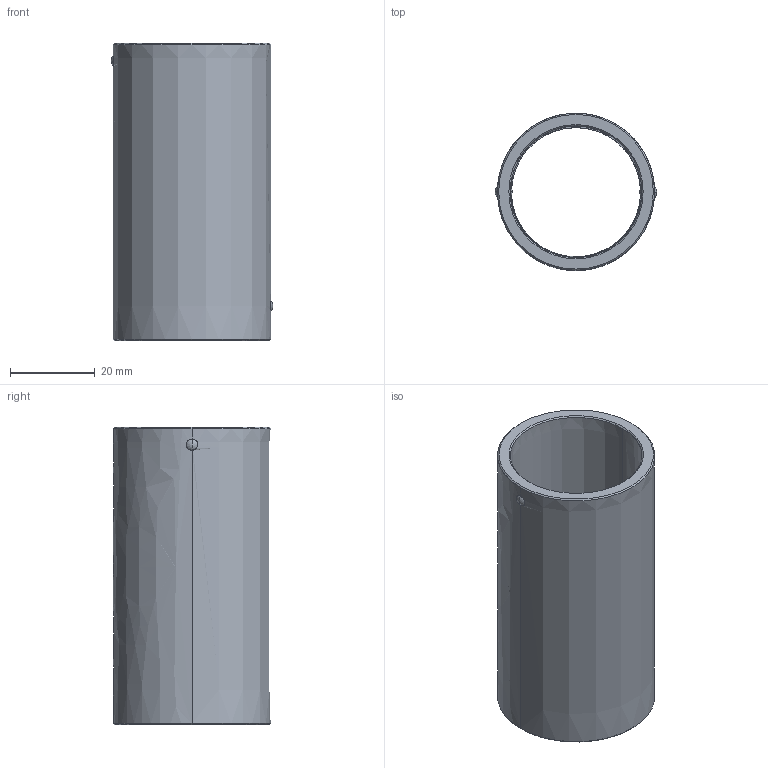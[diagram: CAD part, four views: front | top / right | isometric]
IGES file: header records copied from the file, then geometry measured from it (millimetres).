
Start section: START RECORD GO HERE.
Global section: file name: 730-30x70.igs; native system: DASSAULT SYSTEMES CATIA V5 R20 - www.3ds.com; preprocessor: CATIA Version 5 Release 20 ; author: Utente; organization: NB04-ASUS; date: 20210107.171356; units: millimetre
Bounding box: 38 x 37 x 70 mm (x, y, z)
Surface area: 15887.2 mm2 (no closed solid volume)
Topology: 0 solids, 0 shells, 44 faces, 240 edges, 240 vertices
Faces by surface type: revolution 36, plane 8
